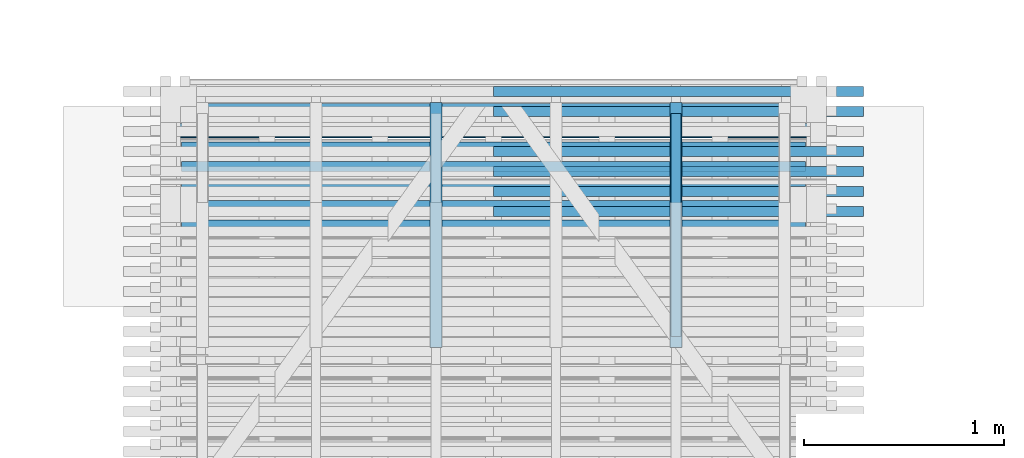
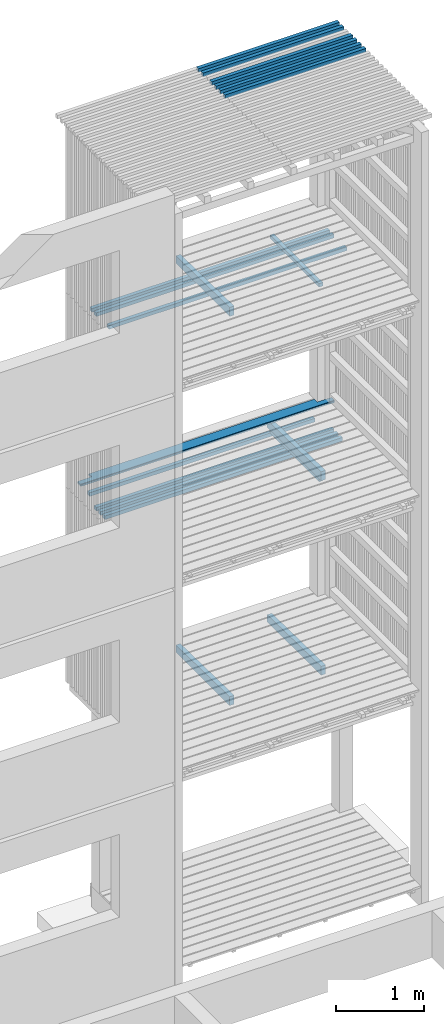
# One storey, part 127 of 182: 20 beams.
"""IFC2X3 building model written with IfcOpenShell, lengths in metres."""

import ifcopenshell
import ifcopenshell.guid

model = None  # the IFC model being written
_history = None  # IfcOwnerHistory: only IFC2X3 demands one
_inside = {}  # id of a spatial element -> (the spatial element, [elements in it])
_under = {}  # id of a project, library or spatial element -> (it, [spatial elements below it])
_declared = {}  # id of a project -> (the project, [libraries it declares])
_typed = {}  # id of a type object -> (the type object, [elements of that type])
_made_of = {}  # id of a material, layer set ... -> (it, [elements and type objects made of it])


def new_model(schema):
    """Start an empty IFC model of exactly this schema.

    Asked for "IFC4X3", IfcOpenShell would pick the latest addendum, in which some entities
    have other attributes; the version numbers below select the first issue.
    IFC2X3 requires an IfcOwnerHistory on every rooted entity: one is made here for all.
    """
    global model, _history
    if schema == "IFC4X3":
        model = ifcopenshell.file(schema_version=(4, 3, 0, 0))
    else:
        model = ifcopenshell.file(schema=schema)
    _inside.clear()
    _under.clear()
    _declared.clear()
    _typed.clear()
    _made_of.clear()
    _history = None
    if model.schema == "IFC2X3":
        org = make("IfcOrganization", Name="unknown")
        user = make(
            "IfcPersonAndOrganization",
            ThePerson=make("IfcPerson", FamilyName="unknown"),
            TheOrganization=org,
        )
        app = make(
            "IfcApplication",
            ApplicationDeveloper=org,
            Version="unknown",
            ApplicationFullName="unknown",
            ApplicationIdentifier="unknown",
        )
        _history = make(
            "IfcOwnerHistory",
            OwningUser=user,
            OwningApplication=app,
            ChangeAction="ADDED",
            CreationDate=0,
        )
    return model


def make(cls, **values):
    """One entity of the class cls with the attributes given. An attribute that is None is left unset."""
    return model.create_entity(
        cls, **{name: value for name, value in values.items() if value is not None}
    )


def rooted(cls, **values):
    """An entity with a GlobalId (a new one), such as an element, a storey or a relation."""
    return make(cls, GlobalId=ifcopenshell.guid.new(), OwnerHistory=_history, **values)


def si_unit(unit_type, name, prefix=None):
    """IfcSIUnit, for example si_unit("LENGTHUNIT", "METRE", prefix="MILLI")."""
    return make("IfcSIUnit", UnitType=unit_type, Prefix=prefix, Name=name)


def assignment(units):
    """IfcUnitAssignment: the units of a project."""
    return None if units is None else make("IfcUnitAssignment", Units=units)


def point(xyz):
    """IfcCartesianPoint."""
    return None if xyz is None else make("IfcCartesianPoint", Coordinates=xyz)


def direction(xyz):
    """IfcDirection."""
    return None if xyz is None else make("IfcDirection", DirectionRatios=xyz)


def frame(location, z_axis=None, x_axis=None):
    """IfcAxis2Placement3D, a coordinate frame: its origin and axes. An axis left out is left unset."""
    return make(
        "IfcAxis2Placement3D",
        Location=point(location),
        Axis=direction(z_axis),
        RefDirection=direction(x_axis),
    )


def origin():
    """The frame at (0, 0, 0) with its axes left unset."""
    return frame((0.0, 0.0, 0.0))


def place(relative_to, where):
    """IfcLocalPlacement: puts the frame where relative to a parent placement (None: the world)."""
    return make(
        "IfcLocalPlacement", PlacementRelTo=relative_to, RelativePlacement=where
    )


def context(
    kind, dimensions, precision=None, world=None, true_north=None, identifier=None
):
    """IfcGeometricRepresentationContext, for example the 3D "Model" context."""
    return make(
        "IfcGeometricRepresentationContext",
        ContextIdentifier=identifier,
        ContextType=kind,
        CoordinateSpaceDimension=dimensions,
        Precision=precision,
        WorldCoordinateSystem=world,
        TrueNorth=true_north,
    )


def project(units=None, contexts=None):
    """IfcProject with its units and contexts."""
    return rooted(
        "IfcProject",
        Name="project",
        RepresentationContexts=contexts,
        UnitsInContext=assignment(units),
    )


def spatial(cls, under=None, at=None, **own):
    """A site, building, storey or space (cls), placed at a placement, below another one or the project."""
    s = rooted(cls, ObjectPlacement=at, **own)
    if under is not None:
        _under.setdefault(under.id(), (under, []))[1].append(s)
    return s


def faces_of(points, faces, orient=None, outer=None):
    """IfcFace entities. A face is a list of loops; a loop is a list of indices into points, from 0.

    orient and outer hold one flag for each loop. By default every Orientation is true, the
    first loop of a face is its IfcFaceOuterBound and the others are IfcFaceBound.
    """
    made = []
    for i, loops in enumerate(faces):
        bounds = []
        for j, loop in enumerate(loops):
            is_outer = j == 0 if outer is None else outer[i][j]
            bounds.append(
                make(
                    "IfcFaceOuterBound" if is_outer else "IfcFaceBound",
                    Bound=make("IfcPolyLoop", Polygon=[points[k] for k in loop]),
                    Orientation=True if orient is None else orient[i][j],
                )
            )
        made.append(make("IfcFace", Bounds=bounds))
    return made


def faceted_brep(points, faces, orient=None, outer=None, voids=None):
    """IfcFacetedBrep: a solid bounded by flat faces; with voids (closed shells), ...WithVoids."""
    shared = [point(p) for p in points]
    hull = make("IfcClosedShell", CfsFaces=faces_of(shared, faces, orient, outer))
    if voids is None:
        return make("IfcFacetedBrep", Outer=hull)
    return make(
        "IfcFacetedBrepWithVoids",
        Outer=hull,
        Voids=[
            make(cls, CfsFaces=faces_of(shared, fs, o, b)) for cls, fs, o, b in voids
        ],
    )


def shape(context_of_items, identifier, shape_type, items):
    """IfcShapeRepresentation: the items that make up one representation, for example the "Body"."""
    return make(
        "IfcShapeRepresentation",
        ContextOfItems=context_of_items,
        RepresentationIdentifier=identifier,
        RepresentationType=shape_type,
        Items=items,
    )


def made_of(thing, what):
    """Note that an element or type object is made of a material, layer set ...; save() writes the relation."""
    if what is not None:
        _made_of.setdefault(what.id(), (what, []))[1].append(thing)
    return thing


def element(
    cls,
    number,
    at=None,
    inside=None,
    cuts=None,
    type_object=None,
    material=None,
    context=None,
    identifier="Body",
    shape_type=None,
    held_by="IfcProductDefinitionShape",
    body=None,
    shapes=None,
    **own,
):
    """One element of the class cls, such as IfcWall. Its Tag is "e" and its number.

    at: its placement. inside: the storey or other place that contains it. cuts: it is an
    opening in that element (IfcRelVoidsElement). A single representation is given by context,
    identifier, shape_type and body (its items); several are given by shapes. held_by: the class
    of the entity that holds the representations. save() writes the other relations.
    """
    e = rooted(cls, Tag="e%d" % number, ObjectPlacement=at, **own)
    if body is not None:
        shapes = [shape(context, identifier, shape_type, body)]
    if shapes is not None:
        e.Representation = make(held_by, Representations=shapes)
    if inside is not None:
        _inside.setdefault(inside.id(), (inside, []))[1].append(e)
    if cuts is not None:
        rooted(
            "IfcRelVoidsElement", RelatingBuildingElement=cuts, RelatedOpeningElement=e
        )
    if type_object is not None:
        _typed.setdefault(type_object.id(), (type_object, []))[1].append(e)
    return made_of(e, material)


def aggregate(whole, parts):
    """IfcRelAggregates: a whole, such as a stair, and the parts it consists of."""
    return rooted("IfcRelAggregates", RelatingObject=whole, RelatedObjects=parts)


def save(model, path):
    """Write the relations noted so far, then the file.

    IfcRelAggregates (storeys below a building ...), IfcRelContainedInSpatialStructure (elements
    in a storey), IfcRelDefinesByType, IfcRelAssociatesMaterial and IfcRelDeclares: one each for
    every whole, place, type object, material and project.
    """
    for whole, parts in _under.values():
        aggregate(whole, parts)
    for where, things in _inside.values():
        rooted(
            "IfcRelContainedInSpatialStructure",
            RelatedElements=things,
            RelatingStructure=where,
        )
    for kind, things in _typed.values():
        rooted("IfcRelDefinesByType", RelatedObjects=things, RelatingType=kind)
    for what, things in _made_of.values():
        rooted("IfcRelAssociatesMaterial", RelatedObjects=things, RelatingMaterial=what)
    for by, libraries in _declared.values():
        rooted("IfcRelDeclares", RelatingContext=by, RelatedDefinitions=libraries)
    model.write(path)


model = new_model("IFC2X3")

# Units and contexts
model_context = context("Model", 3, precision=1e-06, world=origin())
ifc_project = project(units=[si_unit("LENGTHUNIT", "METRE"), si_unit("PLANEANGLEUNIT", "RADIAN")], contexts=[model_context])

# Site, building, storey
site = spatial("IfcSite", under=ifc_project, CompositionType="ELEMENT")
building = spatial("IfcBuilding", under=site, CompositionType="ELEMENT")
storey = spatial("IfcBuildingStorey", under=building, Name="vs", CompositionType="ELEMENT", Elevation=-0.85)

# Beams
placement = place(None, origin())
for number, where, z_axis, x_axis in (
    (1, (55.60299999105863, 7.135077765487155, 7.91739999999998), (0.0, 0.0, 1.0), (0.0, -1.0, 0.0)),
    (2, (55.60299999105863, 7.135077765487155, 5.217399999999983), (0.0, 0.0, 1.0), (0.0, -1.0, 0.0)),
):
    element("IfcBeam", number, at=place(placement, frame(where, z_axis=z_axis, x_axis=x_axis)), inside=storey, Name="Calage", context=model_context, shape_type="Brep", body=[
        faceted_brep([(0.0, -0.025000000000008, -0.025), (0.0, -0.025000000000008, 0.024999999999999), (0.0, 0.024999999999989, 0.024999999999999), (0.0, 0.024999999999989, -0.025), (1.115000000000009, 0.024999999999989, 0.024999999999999), (1.115000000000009, -0.025000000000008, 0.024999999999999), (1.115000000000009, -0.025000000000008, -0.025), (1.115000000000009, 0.024999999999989, -0.025), (0.0, 0.024999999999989, 0.024999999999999), (0.0, -0.025000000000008, 0.024999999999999), (1.115000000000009, -0.025000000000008, 0.024999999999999), (1.115000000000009, 0.024999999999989, 0.024999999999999), (1.115000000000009, -0.025000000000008, 0.024999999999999), (0.0, -0.025000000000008, 0.024999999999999), (0.0, -0.025000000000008, -0.025), (1.115000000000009, -0.025000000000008, -0.025), (1.115000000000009, -0.025000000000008, -0.025), (0.0, -0.025000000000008, -0.025), (0.0, 0.024999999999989, -0.025), (1.115000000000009, 0.024999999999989, -0.025), (1.115000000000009, 0.024999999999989, -0.025), (0.0, 0.024999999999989, -0.025), (0.0, 0.024999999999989, 0.024999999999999), (1.115000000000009, 0.024999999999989, 0.024999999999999)], [[[0, 1, 2, 3]], [[4, 5, 6, 7]], [[8, 9, 10, 11]], [[12, 13, 14, 15]], [[16, 17, 18, 19]], [[20, 21, 22, 23]]]),
    ])
beam_1_placement = place(placement, frame((55.60299999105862, 5.965077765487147, 2.604249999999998), z_axis=(0.0, 0.0, 1.0), x_axis=(0.0, 1.0, 0.0)))
element("IfcBeam", 3, at=beam_1_placement, inside=storey, Name="Solive", context=model_context, shape_type="Brep", body=[
    faceted_brep([(0.0, -0.029999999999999, -0.06185), (1.225000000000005, -0.029999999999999, -0.06185), (1.225000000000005, -0.029999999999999, 0.037349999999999), (0.0, -0.029999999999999, 0.06185), (0.0, 0.030000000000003, -0.06185), (1.225000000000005, 0.029999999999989, -0.06185), (1.225000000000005, -0.029999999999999, -0.06185), (0.0, -0.029999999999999, -0.06185), (0.0, 0.030000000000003, 0.06185), (0.0, 0.030000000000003, -0.06185), (0.0, -0.029999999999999, -0.06185), (0.0, -0.029999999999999, 0.06185), (1.225000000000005, 0.029999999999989, -0.06185), (0.0, 0.030000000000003, -0.06185), (0.0, 0.030000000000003, 0.06185), (1.225000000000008, 0.029999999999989, 0.03735), (1.225000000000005, -0.029999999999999, 0.037349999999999), (1.225000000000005, -0.029999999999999, -0.06185), (1.225000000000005, 0.029999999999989, -0.06185), (1.225000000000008, 0.029999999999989, 0.03735), (0.0, -0.029999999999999, 0.06185), (1.225000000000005, -0.029999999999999, 0.037349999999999), (1.225000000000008, 0.029999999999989, 0.03735), (0.0, 0.030000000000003, 0.06185)], [[[0, 1, 2, 3]], [[4, 5, 6, 7]], [[8, 9, 10, 11]], [[12, 13, 14, 15]], [[16, 17, 18, 19]], [[20, 21, 22, 23]]]),
])
beam_2_placement = place(placement, frame((56.539999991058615, 6.74507776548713, 10.47999999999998), z_axis=(0.0, 0.0, 1.0), x_axis=(-1.0, 0.0, 0.0)))
element("IfcBeam", 4, at=beam_2_placement, inside=storey, Name="Bardage", context=model_context, shape_type="Brep", body=[
    faceted_brep([(-3e-15, 0.025000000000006, 0.025000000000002), (-3e-15, -0.024999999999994, 0.025000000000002), (1.849999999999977, -0.024999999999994, 0.025000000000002), (1.849999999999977, 0.025000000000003, 0.025000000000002), (1.849999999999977, -0.024999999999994, 0.025000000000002), (-3e-15, -0.024999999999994, 0.025000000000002), (-3e-15, -0.024999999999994, -0.024999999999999), (1.849999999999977, -0.024999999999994, -0.024999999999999), (-3e-15, -0.024999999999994, 0.025000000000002), (-3e-15, 0.025000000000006, 0.025000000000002), (-3e-15, 0.025000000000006, -0.024999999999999), (-3e-15, -0.024999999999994, -0.024999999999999), (-3e-15, 0.025000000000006, -0.024999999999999), (-3e-15, 0.025000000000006, 0.025000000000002), (1.849999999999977, 0.025000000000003, 0.025000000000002), (1.849999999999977, 0.025000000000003, -0.024999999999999), (1.849999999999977, -0.024999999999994, -0.024999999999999), (-3e-15, -0.024999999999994, -0.024999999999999), (-3e-15, 0.025000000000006, -0.024999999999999), (1.849999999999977, 0.025000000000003, -0.024999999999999), (1.849999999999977, -0.024999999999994, 0.025000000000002), (1.849999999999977, -0.024999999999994, -0.024999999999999), (1.849999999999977, 0.025000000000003, -0.024999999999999), (1.849999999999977, 0.025000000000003, 0.025000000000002)], [[[0, 1, 2, 3]], [[4, 5, 6, 7]], [[8, 9, 10, 11]], [[12, 13, 14, 15]], [[16, 17, 18, 19]], [[20, 21, 22, 23]]]),
])
beam_3_placement = place(placement, frame((55.60299999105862, 5.965077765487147, 5.304249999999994), z_axis=(0.0, 0.0, 1.0), x_axis=(0.0, 1.0, 0.0)))
element("IfcBeam", 5, at=beam_3_placement, inside=storey, Name="Solive", context=model_context, shape_type="Brep", body=[
    faceted_brep([(0.0, -0.029999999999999, -0.061849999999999), (1.225000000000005, -0.029999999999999, -0.061849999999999), (1.225000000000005, -0.029999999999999, 0.03735), (0.0, -0.029999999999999, 0.06185), (0.0, 0.030000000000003, -0.061849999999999), (1.225000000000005, 0.029999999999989, -0.061849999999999), (1.225000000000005, -0.029999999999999, -0.061849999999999), (0.0, -0.029999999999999, -0.061849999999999), (0.0, 0.030000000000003, 0.061850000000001), (0.0, 0.030000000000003, -0.061849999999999), (0.0, -0.029999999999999, -0.061849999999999), (0.0, -0.029999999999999, 0.06185), (1.225000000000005, 0.029999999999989, -0.061849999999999), (0.0, 0.030000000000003, -0.061849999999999), (0.0, 0.030000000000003, 0.061850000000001), (1.225000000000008, 0.029999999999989, 0.03735), (1.225000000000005, -0.029999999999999, 0.03735), (1.225000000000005, -0.029999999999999, -0.061849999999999), (1.225000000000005, 0.029999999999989, -0.061849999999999), (1.225000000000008, 0.029999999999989, 0.03735), (0.0, -0.029999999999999, 0.06185), (1.225000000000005, -0.029999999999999, 0.03735), (1.225000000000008, 0.029999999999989, 0.03735), (0.0, 0.030000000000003, 0.061850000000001)], [[[0, 1, 2, 3]], [[4, 5, 6, 7]], [[8, 9, 10, 11]], [[12, 13, 14, 15]], [[16, 17, 18, 19]], [[20, 21, 22, 23]]]),
])
beam_4_placement = place(placement, frame((56.539999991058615, 6.645077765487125, 10.47999999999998), z_axis=(0.0, 0.0, 1.0), x_axis=(-1.0, 0.0, 0.0)))
element("IfcBeam", 6, at=beam_4_placement, inside=storey, Name="Bardage", context=model_context, shape_type="Brep", body=[
    faceted_brep([(-3e-15, 0.024999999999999, 0.025000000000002), (-3e-15, -0.024999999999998, 0.025000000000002), (1.849999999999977, -0.024999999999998, 0.025000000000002), (1.849999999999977, 0.024999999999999, 0.025000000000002), (1.849999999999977, -0.024999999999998, 0.025000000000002), (-3e-15, -0.024999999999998, 0.025000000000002), (-3e-15, -0.024999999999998, -0.024999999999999), (1.849999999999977, -0.024999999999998, -0.024999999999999), (-3e-15, -0.024999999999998, 0.025000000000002), (-3e-15, 0.024999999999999, 0.025000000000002), (-3e-15, 0.024999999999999, -0.024999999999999), (-3e-15, -0.024999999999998, -0.024999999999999), (-3e-15, 0.024999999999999, -0.024999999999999), (-3e-15, 0.024999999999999, 0.025000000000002), (1.849999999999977, 0.024999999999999, 0.025000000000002), (1.849999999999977, 0.024999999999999, -0.024999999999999), (1.849999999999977, -0.024999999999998, -0.024999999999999), (-3e-15, -0.024999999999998, -0.024999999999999), (-3e-15, 0.024999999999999, -0.024999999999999), (1.849999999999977, 0.024999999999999, -0.024999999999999), (1.849999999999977, -0.024999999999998, 0.025000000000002), (1.849999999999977, -0.024999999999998, -0.024999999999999), (1.849999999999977, 0.024999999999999, -0.024999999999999), (1.849999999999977, 0.024999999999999, 0.025000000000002)], [[[0, 1, 2, 3]], [[4, 5, 6, 7]], [[8, 9, 10, 11]], [[12, 13, 14, 15]], [[16, 17, 18, 19]], [[20, 21, 22, 23]]]),
])
beam_5_placement = place(placement, frame((56.539999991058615, 7.24507776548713, 10.47999999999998), z_axis=(0.0, 0.0, 1.0), x_axis=(-1.0, 0.0, 0.0)))
element("IfcBeam", 7, at=beam_5_placement, inside=storey, Name="Bardage", context=model_context, shape_type="Brep", body=[
    faceted_brep([(-3e-15, 0.025000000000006, 0.025000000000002), (-3e-15, -0.024999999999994, 0.025000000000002), (1.849999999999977, -0.024999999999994, 0.025000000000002), (1.849999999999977, 0.025000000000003, 0.025000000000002), (1.849999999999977, -0.024999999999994, 0.025000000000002), (-3e-15, -0.024999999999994, 0.025000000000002), (-3e-15, -0.024999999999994, -0.024999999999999), (1.849999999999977, -0.024999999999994, -0.024999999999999), (-3e-15, -0.024999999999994, 0.025000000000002), (-3e-15, 0.025000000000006, 0.025000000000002), (-3e-15, 0.025000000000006, -0.024999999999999), (-3e-15, -0.024999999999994, -0.024999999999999), (-3e-15, 0.025000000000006, -0.024999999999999), (-3e-15, 0.025000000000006, 0.025000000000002), (1.849999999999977, 0.025000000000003, 0.025000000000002), (1.849999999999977, 0.025000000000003, -0.024999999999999), (1.849999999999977, -0.024999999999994, -0.024999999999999), (-3e-15, -0.024999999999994, -0.024999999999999), (-3e-15, 0.025000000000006, -0.024999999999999), (1.849999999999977, 0.025000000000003, -0.024999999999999), (1.849999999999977, -0.024999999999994, 0.025000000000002), (1.849999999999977, -0.024999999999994, -0.024999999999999), (1.849999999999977, 0.025000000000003, -0.024999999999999), (1.849999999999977, 0.025000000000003, 0.025000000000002)], [[[0, 1, 2, 3]], [[4, 5, 6, 7]], [[8, 9, 10, 11]], [[12, 13, 14, 15]], [[16, 17, 18, 19]], [[20, 21, 22, 23]]]),
])
beam_6_placement = place(placement, frame((56.539999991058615, 6.845077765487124, 10.47999999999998), z_axis=(0.0, 0.0, 1.0), x_axis=(-1.0, 2e-15, 0.0)))
element("IfcBeam", 8, at=beam_6_placement, inside=storey, Name="Bardage", context=model_context, shape_type="Brep", body=[
    faceted_brep([(-3e-15, 0.024999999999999, 0.025000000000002), (-3e-15, -0.025000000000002, 0.025000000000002), (1.849999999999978, -0.024999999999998, 0.025000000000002), (1.849999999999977, 0.025000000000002, 0.025000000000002), (1.849999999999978, -0.024999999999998, 0.025000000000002), (-3e-15, -0.025000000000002, 0.025000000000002), (-3e-15, -0.025000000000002, -0.024999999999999), (1.849999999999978, -0.024999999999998, -0.024999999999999), (-3e-15, -0.025000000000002, 0.025000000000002), (-3e-15, 0.024999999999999, 0.025000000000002), (-3e-15, 0.024999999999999, -0.024999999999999), (-3e-15, -0.025000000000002, -0.024999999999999), (-3e-15, 0.024999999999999, -0.024999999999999), (-3e-15, 0.024999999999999, 0.025000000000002), (1.849999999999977, 0.025000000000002, 0.025000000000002), (1.849999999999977, 0.025000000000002, -0.024999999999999), (1.849999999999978, -0.024999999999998, -0.024999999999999), (-3e-15, -0.025000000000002, -0.024999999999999), (-3e-15, 0.024999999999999, -0.024999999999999), (1.849999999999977, 0.025000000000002, -0.024999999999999), (1.849999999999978, -0.024999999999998, 0.025000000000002), (1.849999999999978, -0.024999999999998, -0.024999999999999), (1.849999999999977, 0.025000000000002, -0.024999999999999), (1.849999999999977, 0.025000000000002, 0.025000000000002)], [[[0, 1, 2, 3]], [[4, 5, 6, 7]], [[8, 9, 10, 11]], [[12, 13, 14, 15]], [[16, 17, 18, 19]], [[20, 21, 22, 23]]]),
])
beam_7_placement = place(placement, frame((56.539999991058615, 7.145077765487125, 10.47999999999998), z_axis=(0.0, 0.0, 1.0), x_axis=(-1.0, 0.0, 0.0)))
element("IfcBeam", 9, at=beam_7_placement, inside=storey, Name="Bardage", context=model_context, shape_type="Brep", body=[
    faceted_brep([(-3e-15, 0.024999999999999, 0.025000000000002), (-3e-15, -0.024999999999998, 0.025000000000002), (1.849999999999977, -0.024999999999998, 0.025000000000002), (1.849999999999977, 0.024999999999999, 0.025000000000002), (1.849999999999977, -0.024999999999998, 0.025000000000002), (-3e-15, -0.024999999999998, 0.025000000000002), (-3e-15, -0.024999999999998, -0.024999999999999), (1.849999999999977, -0.024999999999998, -0.024999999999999), (-3e-15, -0.024999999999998, 0.025000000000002), (-3e-15, 0.024999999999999, 0.025000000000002), (-3e-15, 0.024999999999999, -0.024999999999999), (-3e-15, -0.024999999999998, -0.024999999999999), (-3e-15, 0.024999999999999, -0.024999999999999), (-3e-15, 0.024999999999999, 0.025000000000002), (1.849999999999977, 0.024999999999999, 0.025000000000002), (1.849999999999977, 0.024999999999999, -0.024999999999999), (1.849999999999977, -0.024999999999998, -0.024999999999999), (-3e-15, -0.024999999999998, -0.024999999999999), (-3e-15, 0.024999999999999, -0.024999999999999), (1.849999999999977, 0.024999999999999, -0.024999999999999), (1.849999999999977, -0.024999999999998, 0.025000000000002), (1.849999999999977, -0.024999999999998, -0.024999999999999), (1.849999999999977, 0.024999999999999, -0.024999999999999), (1.849999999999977, 0.024999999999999, 0.025000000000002)], [[[0, 1, 2, 3]], [[4, 5, 6, 7]], [[8, 9, 10, 11]], [[12, 13, 14, 15]], [[16, 17, 18, 19]], [[20, 21, 22, 23]]]),
])
beam_8_placement = place(placement, frame((56.24999999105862, 6.577577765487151, 7.86739999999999), z_axis=(0.0, 0.0, 1.0), x_axis=(-1.0, -1e-15, 0.0)))
element("IfcBeam", 10, at=beam_8_placement, inside=storey, Name="Bardage", context=model_context, shape_type="Brep", body=[
    faceted_brep([(3.119999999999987, -0.025000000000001, 0.025000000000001), (3.119999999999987, -0.025000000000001, -0.024999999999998), (3.120000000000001, 0.024999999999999, -0.024999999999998), (3.120000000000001, 0.024999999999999, 0.025000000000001), (-3e-15, -0.024999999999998, 0.025000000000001), (-3e-15, 0.025000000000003, 0.025000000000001), (-3e-15, 0.025000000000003, -0.024999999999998), (-3e-15, -0.024999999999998, -0.024999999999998), (-3e-15, 0.025000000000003, 0.025000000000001), (-3e-15, -0.024999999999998, 0.025000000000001), (3.119999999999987, -0.025000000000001, 0.025000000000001), (3.120000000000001, 0.024999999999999, 0.025000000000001), (3.120000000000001, 0.024999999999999, 0.025000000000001), (3.120000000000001, 0.024999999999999, -0.024999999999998), (-3e-15, 0.025000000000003, -0.024999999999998), (-3e-15, 0.025000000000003, 0.025000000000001), (3.119999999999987, -0.025000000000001, -0.024999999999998), (3.119999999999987, -0.025000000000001, 0.025000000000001), (-3e-15, -0.024999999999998, 0.025000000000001), (-3e-15, -0.024999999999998, -0.024999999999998), (3.120000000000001, 0.024999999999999, -0.024999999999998), (3.119999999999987, -0.025000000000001, -0.024999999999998), (-3e-15, -0.024999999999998, -0.024999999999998), (-3e-15, 0.025000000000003, -0.024999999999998)], [[[0, 1, 2, 3]], [[4, 5, 6, 7]], [[8, 9, 10, 11]], [[12, 13, 14, 15]], [[16, 17, 18, 19]], [[20, 21, 22, 23]]]),
])
beam_9_placement = place(placement, frame((56.24999999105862, 6.674661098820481, 5.167399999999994), z_axis=(0.0, 0.0, 1.0), x_axis=(-1.0, 0.0, 0.0)))
element("IfcBeam", 11, at=beam_9_placement, inside=storey, Name="Bardage", context=model_context, shape_type="Brep", body=[
    faceted_brep([(3.120000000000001, 0.024999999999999, 0.024999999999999), (3.120000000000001, -0.024999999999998, 0.024999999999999), (3.120000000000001, -0.024999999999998, -0.024999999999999), (3.120000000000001, 0.024999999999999, -0.024999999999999), (-3e-15, -0.025000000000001, 0.024999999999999), (-3e-15, 0.024999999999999, 0.024999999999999), (-3e-15, 0.024999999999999, -0.024999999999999), (-3e-15, -0.025000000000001, -0.024999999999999), (3.120000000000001, 0.024999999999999, -0.024999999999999), (3.120000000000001, -0.024999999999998, -0.024999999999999), (-3e-15, -0.025000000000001, -0.024999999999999), (-3e-15, 0.024999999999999, -0.024999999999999), (-3e-15, -0.025000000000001, -0.024999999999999), (3.120000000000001, -0.024999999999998, -0.024999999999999), (3.120000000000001, -0.024999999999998, 0.024999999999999), (-3e-15, -0.025000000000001, 0.024999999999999), (-3e-15, -0.025000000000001, 0.024999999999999), (3.120000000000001, -0.024999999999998, 0.024999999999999), (3.120000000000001, 0.024999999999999, 0.024999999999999), (-3e-15, 0.024999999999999, 0.024999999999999), (-3e-15, 0.024999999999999, 0.024999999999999), (3.120000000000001, 0.024999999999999, 0.024999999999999), (3.120000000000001, 0.024999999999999, -0.024999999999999), (-3e-15, 0.024999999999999, -0.024999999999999)], [[[0, 1, 2, 3]], [[4, 5, 6, 7]], [[8, 9, 10, 11]], [[12, 13, 14, 15]], [[16, 17, 18, 19]], [[20, 21, 22, 23]]]),
])
beam_10_placement = place(placement, frame((56.24999999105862, 6.965911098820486, 7.86739999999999), z_axis=(0.0, 0.0, 1.0), x_axis=(-1.0, 0.0, 0.0)))
element("IfcBeam", 12, at=beam_10_placement, inside=storey, Name="Bardage", context=model_context, shape_type="Brep", body=[
    faceted_brep([(3.120000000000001, 0.025000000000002, -0.024999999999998), (3.120000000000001, 0.025000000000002, 0.025000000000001), (3.120000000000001, -0.024999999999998, 0.025000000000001), (3.120000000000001, -0.024999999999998, -0.024999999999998), (-3e-15, -0.024999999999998, -0.024999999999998), (-3e-15, -0.024999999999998, 0.025000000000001), (-3e-15, 0.025000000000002, 0.025000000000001), (-3e-15, 0.025000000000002, -0.024999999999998), (-3e-15, 0.025000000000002, -0.024999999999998), (-3e-15, 0.025000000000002, 0.025000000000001), (3.120000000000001, 0.025000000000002, 0.025000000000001), (3.120000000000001, 0.025000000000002, -0.024999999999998), (-3e-15, 0.025000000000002, 0.025000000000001), (-3e-15, -0.024999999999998, 0.025000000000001), (3.120000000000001, -0.024999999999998, 0.025000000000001), (3.120000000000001, 0.025000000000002, 0.025000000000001), (-3e-15, -0.024999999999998, 0.025000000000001), (-3e-15, -0.024999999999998, -0.024999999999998), (3.120000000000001, -0.024999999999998, -0.024999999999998), (3.120000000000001, -0.024999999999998, 0.025000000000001), (-3e-15, -0.024999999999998, -0.024999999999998), (-3e-15, 0.025000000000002, -0.024999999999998), (3.120000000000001, 0.025000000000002, -0.024999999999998), (3.120000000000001, -0.024999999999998, -0.024999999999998)], [[[0, 1, 2, 3]], [[4, 5, 6, 7]], [[8, 9, 10, 11]], [[12, 13, 14, 15]], [[16, 17, 18, 19]], [[20, 21, 22, 23]]]),
])
beam_11_placement = place(placement, frame((56.539999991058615, 6.945077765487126, 10.47999999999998), z_axis=(0.0, 0.0, 1.0), x_axis=(-1.0, 0.0, 0.0)))
element("IfcBeam", 13, at=beam_11_placement, inside=storey, Name="Bardage", context=model_context, shape_type="Brep", body=[
    faceted_brep([(-3e-15, 0.025000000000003, 0.025000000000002), (-3e-15, -0.024999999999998, 0.025000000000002), (1.849999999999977, -0.025000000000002, 0.025000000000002), (1.849999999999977, 0.025000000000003, 0.025000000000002), (1.849999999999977, -0.025000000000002, 0.025000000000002), (-3e-15, -0.024999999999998, 0.025000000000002), (-3e-15, -0.024999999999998, -0.024999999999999), (1.849999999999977, -0.025000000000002, -0.024999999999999), (-3e-15, -0.024999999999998, 0.025000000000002), (-3e-15, 0.025000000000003, 0.025000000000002), (-3e-15, 0.025000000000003, -0.024999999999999), (-3e-15, -0.024999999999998, -0.024999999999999), (-3e-15, 0.025000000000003, -0.024999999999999), (-3e-15, 0.025000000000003, 0.025000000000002), (1.849999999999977, 0.025000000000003, 0.025000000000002), (1.849999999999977, 0.025000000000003, -0.024999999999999), (1.849999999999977, -0.025000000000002, -0.024999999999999), (-3e-15, -0.024999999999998, -0.024999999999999), (-3e-15, 0.025000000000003, -0.024999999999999), (1.849999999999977, 0.025000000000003, -0.024999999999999), (1.849999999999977, -0.025000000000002, 0.025000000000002), (1.849999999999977, -0.025000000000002, -0.024999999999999), (1.849999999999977, 0.025000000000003, -0.024999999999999), (1.849999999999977, 0.025000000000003, 0.025000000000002)], [[[0, 1, 2, 3]], [[4, 5, 6, 7]], [[8, 9, 10, 11]], [[12, 13, 14, 15]], [[16, 17, 18, 19]], [[20, 21, 22, 23]]]),
])
beam_12_placement = place(placement, frame((54.402999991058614, 5.965077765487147, 2.604249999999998), z_axis=(0.0, 0.0, 1.0), x_axis=(1.2e-14, 1.0, 0.0)))
element("IfcBeam", 14, at=beam_12_placement, inside=storey, Name="Solive", context=model_context, shape_type="Brep", body=[
    faceted_brep([(0.0, -0.030000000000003, -0.06185), (1.225000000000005, -0.029999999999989, -0.06185), (1.225000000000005, -0.029999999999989, 0.037349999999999), (0.0, -0.030000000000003, 0.06185), (-1e-15, 0.029999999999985, -0.06185), (1.225000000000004, 0.029999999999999, -0.06185), (1.225000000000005, -0.029999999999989, -0.06185), (0.0, -0.030000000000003, -0.06185), (-1e-15, 0.029999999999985, 0.06185), (-1e-15, 0.029999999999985, -0.06185), (0.0, -0.030000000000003, -0.06185), (0.0, -0.030000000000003, 0.06185), (1.225000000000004, 0.029999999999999, -0.06185), (-1e-15, 0.029999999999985, -0.06185), (-1e-15, 0.029999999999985, 0.06185), (1.225000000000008, 0.029999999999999, 0.037349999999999), (1.225000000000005, -0.029999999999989, 0.037349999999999), (1.225000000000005, -0.029999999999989, -0.06185), (1.225000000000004, 0.029999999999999, -0.06185), (1.225000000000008, 0.029999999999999, 0.037349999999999), (0.0, -0.030000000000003, 0.06185), (1.225000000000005, -0.029999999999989, 0.037349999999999), (1.225000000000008, 0.029999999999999, 0.037349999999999), (-1e-15, 0.029999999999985, 0.06185)], [[[0, 1, 2, 3]], [[4, 5, 6, 7]], [[8, 9, 10, 11]], [[12, 13, 14, 15]], [[16, 17, 18, 19]], [[20, 21, 22, 23]]]),
])
beam_13_placement = place(placement, frame((56.24999999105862, 6.771744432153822, 5.167399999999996), z_axis=(0.0, 0.0, 1.0), x_axis=(-1.0, 0.0, 0.0)))
element("IfcBeam", 15, at=beam_13_placement, inside=storey, Name="Bardage", context=model_context, shape_type="Brep", body=[
    faceted_brep([(3.120000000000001, 0.025000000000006, 0.024999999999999), (3.120000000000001, -0.024999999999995, 0.024999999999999), (3.120000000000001, -0.024999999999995, -0.025), (3.120000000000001, 0.025000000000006, -0.025), (-3e-15, -0.024999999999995, 0.024999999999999), (-3e-15, 0.025000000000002, 0.024999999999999), (-3e-15, 0.025000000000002, -0.025), (-3e-15, -0.024999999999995, -0.025), (-3e-15, -0.024999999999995, -0.025), (-3e-15, 0.025000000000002, -0.025), (3.120000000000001, 0.025000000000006, -0.025), (3.120000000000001, -0.024999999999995, -0.025), (3.120000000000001, -0.024999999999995, -0.025), (3.120000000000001, -0.024999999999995, 0.024999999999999), (-3e-15, -0.024999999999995, 0.024999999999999), (-3e-15, -0.024999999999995, -0.025), (3.120000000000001, 0.025000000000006, 0.024999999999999), (3.120000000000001, 0.025000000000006, -0.025), (-3e-15, 0.025000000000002, -0.025), (-3e-15, 0.025000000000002, 0.024999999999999), (3.120000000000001, -0.024999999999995, 0.024999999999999), (3.120000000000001, 0.025000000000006, 0.024999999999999), (-3e-15, 0.025000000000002, 0.024999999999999), (-3e-15, -0.024999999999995, 0.024999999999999)], [[[0, 1, 2, 3]], [[4, 5, 6, 7]], [[8, 9, 10, 11]], [[12, 13, 14, 15]], [[16, 17, 18, 19]], [[20, 21, 22, 23]]]),
])
beam_14_placement = place(placement, frame((56.24999999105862, 6.868827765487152, 7.86739999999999), z_axis=(0.0, 0.0, 1.0), x_axis=(-1.0, 0.0, 0.0)))
element("IfcBeam", 16, at=beam_14_placement, inside=storey, Name="Bardage", context=model_context, shape_type="Brep", body=[
    faceted_brep([(3.120000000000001, 0.025000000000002, -0.024999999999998), (3.120000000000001, 0.025000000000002, 0.025000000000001), (3.120000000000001, -0.024999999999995, 0.025000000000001), (3.120000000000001, -0.024999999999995, -0.024999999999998), (-3e-15, -0.024999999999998, -0.024999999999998), (-3e-15, -0.024999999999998, 0.025000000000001), (-3e-15, 0.025000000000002, 0.025000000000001), (-3e-15, 0.025000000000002, -0.024999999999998), (-3e-15, 0.025000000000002, -0.024999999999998), (-3e-15, 0.025000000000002, 0.025000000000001), (3.120000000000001, 0.025000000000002, 0.025000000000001), (3.120000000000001, 0.025000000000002, -0.024999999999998), (-3e-15, 0.025000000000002, 0.025000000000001), (-3e-15, -0.024999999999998, 0.025000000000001), (3.120000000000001, -0.024999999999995, 0.025000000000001), (3.120000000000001, 0.025000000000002, 0.025000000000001), (-3e-15, -0.024999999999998, 0.025000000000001), (-3e-15, -0.024999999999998, -0.024999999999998), (3.120000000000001, -0.024999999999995, -0.024999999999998), (3.120000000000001, -0.024999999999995, 0.025000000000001), (-3e-15, -0.024999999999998, -0.024999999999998), (-3e-15, 0.025000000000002, -0.024999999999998), (3.120000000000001, 0.025000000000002, -0.024999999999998), (3.120000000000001, -0.024999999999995, -0.024999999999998)], [[[0, 1, 2, 3]], [[4, 5, 6, 7]], [[8, 9, 10, 11]], [[12, 13, 14, 15]], [[16, 17, 18, 19]], [[20, 21, 22, 23]]]),
])
beam_15_placement = place(placement, frame((54.40299999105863, 5.965077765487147, 8.00424999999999), z_axis=(0.0, 0.0, 1.0), x_axis=(0.0, 1.0, 0.0)))
element("IfcBeam", 17, at=beam_15_placement, inside=storey, Name="Solive", context=model_context, shape_type="Brep", body=[
    faceted_brep([(0.0, -0.029999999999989, -0.061849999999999), (1.225000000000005, -0.029999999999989, -0.061849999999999), (1.225000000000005, -0.029999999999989, 0.037349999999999), (0.0, -0.029999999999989, 0.061849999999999), (0.0, 0.029999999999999, -0.061849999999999), (1.225000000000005, 0.029999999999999, -0.061849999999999), (1.225000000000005, -0.029999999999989, -0.061849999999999), (0.0, -0.029999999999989, -0.061849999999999), (0.0, 0.029999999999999, 0.061850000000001), (0.0, 0.029999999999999, -0.061849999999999), (0.0, -0.029999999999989, -0.061849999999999), (0.0, -0.029999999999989, 0.061849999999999), (1.225000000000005, 0.029999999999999, -0.061849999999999), (0.0, 0.029999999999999, -0.061849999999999), (0.0, 0.029999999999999, 0.061850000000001), (1.225000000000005, 0.029999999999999, 0.037349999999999), (1.225000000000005, -0.029999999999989, 0.037349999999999), (1.225000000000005, -0.029999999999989, -0.061849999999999), (1.225000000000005, 0.029999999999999, -0.061849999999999), (1.225000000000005, 0.029999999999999, 0.037349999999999), (0.0, -0.029999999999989, 0.061849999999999), (1.225000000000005, -0.029999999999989, 0.037349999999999), (1.225000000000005, 0.029999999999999, 0.037349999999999), (0.0, 0.029999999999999, 0.061850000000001)], [[[0, 1, 2, 3]], [[4, 5, 6, 7]], [[8, 9, 10, 11]], [[12, 13, 14, 15]], [[16, 17, 18, 19]], [[20, 21, 22, 23]]]),
])
beam_16_placement = place(placement, frame((56.169999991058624, 7.160077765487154, 5.167399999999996), z_axis=(0.0, 0.0, 1.0), x_axis=(-1.0, 0.0, 0.0)))
element("IfcBeam", 18, at=beam_16_placement, inside=storey, Name="Bardage", context=model_context, shape_type="Brep", body=[
    faceted_brep([(2.96000000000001, -0.024999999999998, 0.025), (2.96000000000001, -0.024999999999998, -0.025), (2.96000000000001, 0.025000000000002, -0.025), (2.96000000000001, 0.025000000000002, 0.025), (2e-15, 0.024999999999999, 0.025), (2e-15, 0.024999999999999, -0.025), (2e-15, -0.024999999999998, -0.025), (2e-15, -0.024999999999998, 0.025), (2e-15, -0.024999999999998, -0.025), (2e-15, 0.024999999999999, -0.025), (2.96000000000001, 0.025000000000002, -0.025), (2.96000000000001, -0.024999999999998, -0.025), (2e-15, 0.024999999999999, -0.025), (2e-15, 0.024999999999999, 0.025), (2.96000000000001, 0.025000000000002, 0.025), (2.96000000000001, 0.025000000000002, -0.025), (2e-15, 0.024999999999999, 0.025), (2e-15, -0.024999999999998, 0.025), (2.96000000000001, -0.024999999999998, 0.025), (2.96000000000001, 0.025000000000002, 0.025), (2e-15, -0.024999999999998, 0.025), (2e-15, -0.024999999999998, -0.025), (2.96000000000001, -0.024999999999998, -0.025), (2.96000000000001, -0.024999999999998, 0.025)], [[[0, 1, 2, 3]], [[4, 5, 6, 7]], [[8, 9, 10, 11]], [[12, 13, 14, 15]], [[16, 17, 18, 19]], [[20, 21, 22, 23]]]),
])
beam_17_placement = place(placement, frame((56.24999999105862, 6.868827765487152, 5.167399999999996), z_axis=(0.0, 0.0, 1.0), x_axis=(-1.0, 0.0, 0.0)))
element("IfcBeam", 19, at=beam_17_placement, inside=storey, Name="Bardage", context=model_context, shape_type="Brep", body=[
    faceted_brep([(3.120000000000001, 0.025000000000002, -0.025), (3.120000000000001, 0.025000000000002, 0.024999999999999), (3.120000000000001, -0.024999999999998, 0.024999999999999), (3.120000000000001, -0.024999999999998, -0.025), (-3e-15, -0.024999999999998, -0.025), (-3e-15, -0.024999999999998, 0.024999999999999), (-3e-15, 0.025000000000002, 0.024999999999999), (-3e-15, 0.025000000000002, -0.025), (-3e-15, 0.025000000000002, -0.025), (-3e-15, 0.025000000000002, 0.024999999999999), (3.120000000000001, 0.025000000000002, 0.024999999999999), (3.120000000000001, 0.025000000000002, -0.025), (-3e-15, 0.025000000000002, 0.024999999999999), (-3e-15, -0.024999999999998, 0.024999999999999), (3.120000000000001, -0.024999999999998, 0.024999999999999), (3.120000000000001, 0.025000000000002, 0.024999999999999), (-3e-15, -0.024999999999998, 0.024999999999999), (-3e-15, -0.024999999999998, -0.025), (3.120000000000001, -0.024999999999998, -0.025), (3.120000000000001, -0.024999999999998, 0.024999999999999), (-3e-15, -0.024999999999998, -0.025), (-3e-15, 0.025000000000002, -0.025), (3.120000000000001, 0.025000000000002, -0.025), (3.120000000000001, -0.024999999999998, -0.025)], [[[0, 1, 2, 3]], [[4, 5, 6, 7]], [[8, 9, 10, 11]], [[12, 13, 14, 15]], [[16, 17, 18, 19]], [[20, 21, 22, 23]]]),
])
beam_18_placement = place(placement, frame((56.35499999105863, 7.084577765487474, 5.433499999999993), z_axis=(0.0, 0.0, 1.0), x_axis=(-1.0, 0.0, 0.0)))
element("IfcBeam", 20, at=beam_18_placement, inside=storey, Name="Caillebotis", context=model_context, shape_type="Brep", body=[
    faceted_brep([(3.144999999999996, -0.000499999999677, 0.0135), (3.144999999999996, -0.000499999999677, -0.0135), (3.329999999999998, -0.000499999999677, -0.0135), (3.329999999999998, -0.000499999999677, 0.0135), (3.329999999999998, 0.072500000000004, -0.0135), (3.329999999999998, 0.0725, 0.008500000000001), (3.329999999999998, 0.067500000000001, 0.0135), (3.329999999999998, -0.000499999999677, 0.0135), (3.329999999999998, -0.000499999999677, -0.0135), (3.144999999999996, -0.072499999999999, 0.008500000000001), (3.144999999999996, -0.072499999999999, -0.013500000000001), (3.144999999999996, -0.000499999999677, -0.0135), (3.144999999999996, -0.000499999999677, 0.0135), (3.144999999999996, -0.0675, 0.0135), (3.144999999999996, -0.072499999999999, -0.013500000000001), (3.144999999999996, -0.072499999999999, 0.008500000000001), (0.185000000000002, -0.072499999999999, 0.008500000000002), (0.185000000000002, -0.072499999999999, -0.0135), (3.144999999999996, -0.072499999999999, 0.008500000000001), (3.144999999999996, -0.0675, 0.0135), (0.185000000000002, -0.067500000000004, 0.0135), (0.185000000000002, -0.072499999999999, 0.008500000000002), (0.185000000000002, -0.072499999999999, -0.0135), (0.185000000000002, -0.072499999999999, 0.008500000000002), (0.185000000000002, -0.067500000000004, 0.0135), (0.185000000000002, -0.000499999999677, 0.0135), (0.185000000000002, -0.000499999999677, -0.0135), (1.4e-14, -0.000499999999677, 0.0135), (0.0, 0.067500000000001, 0.0135), (0.0, 0.0725, 0.008500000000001), (0.0, 0.0725, -0.0135), (0.0, -0.000499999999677, -0.0135), (3.329999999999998, 0.0725, 0.008500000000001), (3.329999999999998, 0.072500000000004, -0.0135), (0.0, 0.0725, -0.0135), (0.0, 0.0725, 0.008500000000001), (3.329999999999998, 0.067500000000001, 0.0135), (3.329999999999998, 0.0725, 0.008500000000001), (0.0, 0.0725, 0.008500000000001), (0.0, 0.067500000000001, 0.0135), (3.144999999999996, -0.0675, 0.0135), (3.144999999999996, -0.000499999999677, 0.0135), (3.329999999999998, -0.000499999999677, 0.0135), (3.329999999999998, 0.067500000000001, 0.0135), (0.0, 0.067500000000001, 0.0135), (1.4e-14, -0.000499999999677, 0.0135), (0.185000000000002, -0.000499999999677, 0.0135), (0.185000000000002, -0.067500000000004, 0.0135), (0.185000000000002, -0.000499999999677, -0.0135), (0.185000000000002, -0.000499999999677, 0.0135), (1.4e-14, -0.000499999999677, 0.0135), (0.0, -0.000499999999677, -0.0135), (0.0, -0.000499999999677, -0.0135), (0.0, 0.0725, -0.0135), (3.329999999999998, 0.072500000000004, -0.0135), (3.329999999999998, -0.000499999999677, -0.0135), (3.144999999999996, -0.000499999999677, -0.0135), (3.144999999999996, -0.072499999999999, -0.013500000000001), (0.185000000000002, -0.072499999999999, -0.0135), (0.185000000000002, -0.000499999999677, -0.0135)], [[[0, 1, 2, 3]], [[4, 5, 6, 7, 8]], [[9, 10, 11, 12, 13]], [[14, 15, 16, 17]], [[18, 19, 20, 21]], [[22, 23, 24, 25, 26]], [[27, 28, 29, 30, 31]], [[32, 33, 34, 35]], [[36, 37, 38, 39]], [[40, 41, 42, 43, 44, 45, 46, 47]], [[48, 49, 50, 51]], [[52, 53, 54, 55, 56, 57, 58, 59]]]),
])

save(model, "model.ifc")
